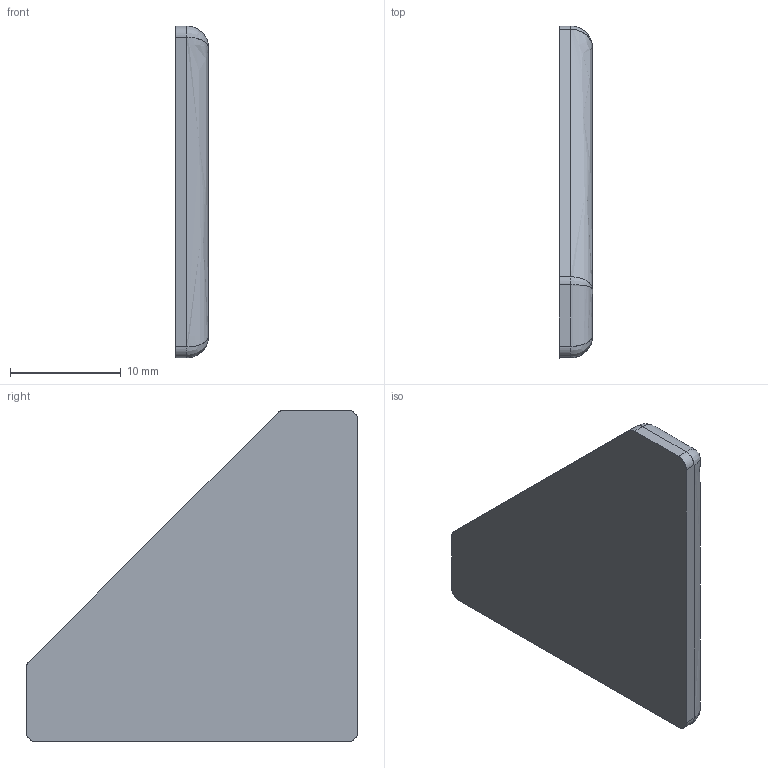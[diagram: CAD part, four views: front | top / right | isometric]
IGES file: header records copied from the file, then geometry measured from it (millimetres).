
Start section: SolidWorks IGES file using analytic representation for surfaces
Global section: file name: C:\Documents and Settings\Administrator\デスクトップ\2回目指定保存後\SolidWorks\SF\SF20\Parts\SFA-J11.IGS; native system: SolidWorks 2006 by SolidWorks Corporation; preprocessor: SolidWorks 2006 by SolidWorks Corporation; author: Administrator; date: 061212.172652; units: millimetre
Bounding box: 3 x 30 x 30 mm (x, y, z)
Surface area: 1492.7 mm2 (no closed solid volume)
Topology: 0 solids, 0 shells, 22 faces, 162 edges, 157 vertices
Faces by surface type: bspline 12, revolution 10
